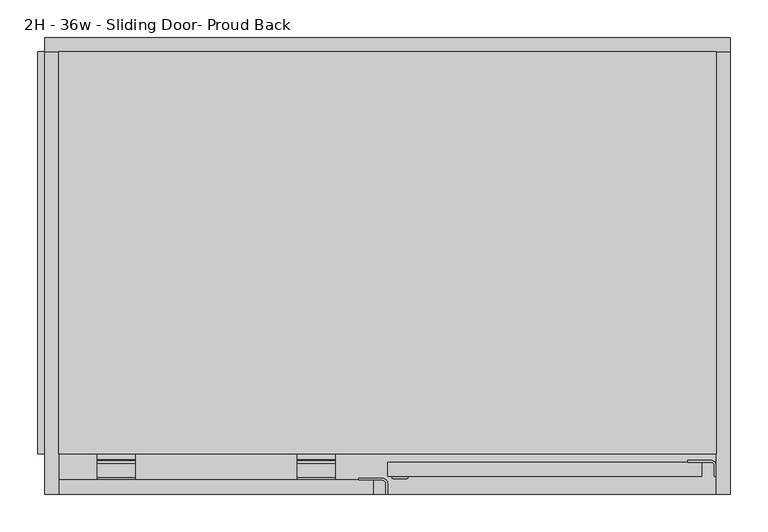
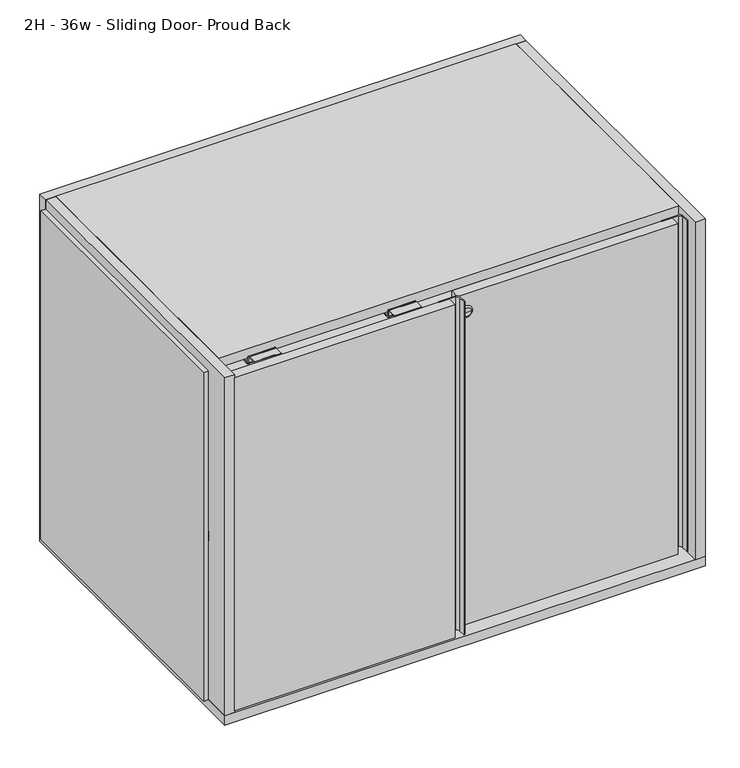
"""IFC4 building model written with IfcOpenShell, lengths in millimetres: furniture geometry, Haworth_BeHold_Modular_AttachedCredenza_StorageEnd : 2H - 36w - Sliding Door- Proud Back."""

from ifc_helpers import new_model, si_unit, point, frame, frame_2d, origin, origin_with_axes, place, context, project, spatial, polyline, circle_curve, ellipse_curve, trimmed, segment, composite_curve, outline, extrude, source, transform, mapped, element, save
from ifc_brep_helpers import plane_surface, revolved_surface, advanced_brep


def furniture_2h_36w_sliding_door_proud_back_23e09c04(model_context):
    return source(origin(), model_context, "Body", "SolidModel", [
        extrude(outline(composite_curve([segment(trimmed(circle_curve(frame_2d((-574.0474414, 701.0476594)), 1.905), [point((-574.0474414, 702.9526594))], [point((-575.9524414, 701.0476594))], True, "CARTESIAN"), True, "CONTINUOUS"), segment(polyline([(-575.9524414, 701.0476594), (-575.9524414, 679.4499516), (-577.85, 679.4500242), (-577.85, 701.04)]), True, "CONTINUOUS"), segment(trimmed(circle_curve(frame_2d((-574.04, 701.04)), 3.81), [point((-577.85, 701.04))], [point((-574.04, 704.85))], False, "CARTESIAN"), True, "CONTINUOUS"), segment(polyline([(-574.04, 704.85), (-555.8080896, 704.85)]), True, "CONTINUOUS"), segment(trimmed(circle_curve(frame_2d((-555.8080896, 701.04)), 3.81), [point((-555.8080896, 704.85))], [point((-551.9980896, 701.04))], False, "CARTESIAN"), True, "CONTINUOUS"), segment(polyline([(-551.9980896, 701.04), (-551.9980896, 690.8800242)]), True, "CONTINUOUS"), segment(trimmed(circle_curve(frame_2d((-550.0930896, 690.8800242)), 1.905), [point((-551.9980896, 690.8800242))], [point((-550.0930896, 688.9750242))], True, "CARTESIAN"), True, "CONTINUOUS"), segment(polyline([(-550.0930896, 688.9750242), (-542.7717051, 688.9750242)]), True, "CONTINUOUS"), segment(trimmed(circle_curve(frame_2d((-542.7717051, 690.8607522)), 1.885728), [point((-542.7717051, 688.9750242))], [point((-540.8859772, 690.8607522))], True, "CARTESIAN"), True, "CONTINUOUS"), segment(polyline([(-540.8859772, 690.8607522), (-540.8859772, 698.5000242), (-538.9884186, 698.5000242), (-538.9884186, 690.9003686)]), True, "CONTINUOUS"), segment(trimmed(circle_curve(frame_2d((-542.8111038, 690.9003686)), 3.8226852), [point((-538.9884186, 690.9003686))], [point((-542.8110658, 687.0776834))], False, "CARTESIAN"), True, "CONTINUOUS"), segment(polyline([(-542.8110658, 687.0776834), (-550.0879358, 687.0776111)]), True, "CONTINUOUS"), segment(trimmed(circle_curve(frame_2d((-550.0879736, 690.8876111)), 3.81), [point((-550.0879358, 687.0776111))], [point((-553.8979736, 690.8876111))], False, "CARTESIAN"), True, "CONTINUOUS"), segment(polyline([(-553.8979736, 690.8876111), (-553.8979736, 701.0476594)]), True, "CONTINUOUS"), segment(trimmed(circle_curve(frame_2d((-555.8029736, 701.0476594)), 1.905), [point((-553.8979736, 701.0476594))], [point((-555.8029736, 702.9526594))], True, "CARTESIAN"), True, "CONTINUOUS"), segment(polyline([(-555.8029736, 702.9526594), (-574.0474414, 702.9526594)]), True, "CONTINUOUS")], self_intersect=False)), frame((-544.2070469, 0.0, 0.0), z_axis=(1.0, 0.0, 0.0), x_axis=(0.0, 1.0, 0.0)), (0.0, 0.0, 1.0), 50.8),
        extrude(outline(composite_curve([segment(trimmed(circle_curve(frame_2d((-574.0474414, 701.0476594)), 1.905), [point((-574.0474414, 702.9526594))], [point((-575.9524414, 701.0476594))], True, "CARTESIAN"), True, "CONTINUOUS"), segment(polyline([(-575.9524414, 701.0476594), (-575.9524414, 679.4499516), (-577.85, 679.4500242), (-577.85, 701.04)]), True, "CONTINUOUS"), segment(trimmed(circle_curve(frame_2d((-574.04, 701.04)), 3.81), [point((-577.85, 701.04))], [point((-574.04, 704.85))], False, "CARTESIAN"), True, "CONTINUOUS"), segment(polyline([(-574.04, 704.85), (-555.8080896, 704.85)]), True, "CONTINUOUS"), segment(trimmed(circle_curve(frame_2d((-555.8080896, 701.04)), 3.81), [point((-555.8080896, 704.85))], [point((-551.9980896, 701.04))], False, "CARTESIAN"), True, "CONTINUOUS"), segment(polyline([(-551.9980896, 701.04), (-551.9980896, 690.8800242)]), True, "CONTINUOUS"), segment(trimmed(circle_curve(frame_2d((-550.0930896, 690.8800242)), 1.905), [point((-551.9980896, 690.8800242))], [point((-550.0930896, 688.9750242))], True, "CARTESIAN"), True, "CONTINUOUS"), segment(polyline([(-550.0930896, 688.9750242), (-542.7717051, 688.9750242)]), True, "CONTINUOUS"), segment(trimmed(circle_curve(frame_2d((-542.7717051, 690.8607522)), 1.885728), [point((-542.7717051, 688.9750242))], [point((-540.8859772, 690.8607522))], True, "CARTESIAN"), True, "CONTINUOUS"), segment(polyline([(-540.8859772, 690.8607522), (-540.8859772, 698.5000242), (-538.9884186, 698.5000242), (-538.9884186, 690.9003686)]), True, "CONTINUOUS"), segment(trimmed(circle_curve(frame_2d((-542.8111038, 690.9003686)), 3.8226852), [point((-538.9884186, 690.9003686))], [point((-542.8110658, 687.0776834))], False, "CARTESIAN"), True, "CONTINUOUS"), segment(polyline([(-542.8110658, 687.0776834), (-550.0879358, 687.0776111)]), True, "CONTINUOUS"), segment(trimmed(circle_curve(frame_2d((-550.0879736, 690.8876111)), 3.81), [point((-550.0879358, 687.0776111))], [point((-553.8979736, 690.8876111))], False, "CARTESIAN"), True, "CONTINUOUS"), segment(polyline([(-553.8979736, 690.8876111), (-553.8979736, 701.0476594)]), True, "CONTINUOUS"), segment(trimmed(circle_curve(frame_2d((-555.8029736, 701.0476594)), 1.905), [point((-553.8979736, 701.0476594))], [point((-555.8029736, 702.9526594))], True, "CARTESIAN"), True, "CONTINUOUS"), segment(polyline([(-555.8029736, 702.9526594), (-574.0474414, 702.9526594)]), True, "CONTINUOUS")], self_intersect=False)), frame((-277.5112637, 0.0, 0.0), z_axis=(1.0, 0.0, 0.0), x_axis=(0.0, 1.0, 0.0)), (0.0, 0.0, 1.0), 50.8),
        extrude(outline(composite_curve([segment(polyline([(-194.9620389, -577.85), (-194.9620389, -575.5745575), (-163.8563225, -575.5745575)]), True, "CONTINUOUS"), segment(trimmed(circle_curve(frame_2d((-163.8563225, -582.5688411)), 6.9942836), [point((-163.8563225, -575.5745575))], [point((-156.8620389, -582.5688411))], False, "CARTESIAN"), True, "CONTINUOUS"), segment(polyline([(-156.8620389, -582.5688411), (-156.8620389, -596.9104645), (-159.1479459, -596.9104645), (-159.1479459, -582.803)]), True, "CONTINUOUS"), segment(trimmed(circle_curve(frame_2d((-164.1009459, -582.803)), 4.953), [point((-159.1479459, -582.803))], [point((-164.1009459, -577.85))], True, "CARTESIAN"), True, "CONTINUOUS"), segment(polyline([(-164.1009459, -577.85), (-194.9620389, -577.85)]), True, "CONTINUOUS")], self_intersect=False)), frame((0.0, 0.0, 34.925), z_axis=(0.0, 0.0, 1.0), x_axis=(1.0, 0.0, 0.0)), (0.0, 0.0, 1.0), 669.925),
        extrude(outline(polyline([(-175.9091553, -596.9), (-595.0091553, -596.9), (-595.0091553, -577.85), (-175.9091553, -577.85), (-175.9091553, -596.9)])), frame((0.0, 0.0, 34.925), z_axis=(0.0, 0.0, 1.0), x_axis=(1.0, 0.0, 0.0)), (0.0, 0.0, 1.0), 669.925),
        extrude(outline(composite_curve([segment(polyline([(243.1879611, -554.0375), (243.1879611, -551.7620575), (274.2936775, -551.7620575)]), True, "CONTINUOUS"), segment(trimmed(circle_curve(frame_2d((274.2936775, -558.7563411)), 6.9942836), [point((274.2936775, -551.7620575))], [point((281.2879611, -558.7563411))], False, "CARTESIAN"), True, "CONTINUOUS"), segment(polyline([(281.2879611, -558.7563411), (281.2879611, -573.0979645), (279.0020541, -573.0979645), (279.0020541, -558.9905)]), True, "CONTINUOUS"), segment(trimmed(circle_curve(frame_2d((274.0490541, -558.9905)), 4.953), [point((279.0020541, -558.9905))], [point((274.0490541, -554.0375))], True, "CARTESIAN"), True, "CONTINUOUS"), segment(polyline([(274.0490541, -554.0375), (243.1879611, -554.0375)]), True, "CONTINUOUS")], self_intersect=False)), frame((0.0, 0.0, 34.925), z_axis=(0.0, 0.0, 1.0), x_axis=(1.0, 0.0, 0.0)), (0.0, 0.0, 1.0), 665.1625),
        advanced_brep(
        [(-148.2859311, -576.2628876, 664.9085), (-132.4123796, -576.2628876, 664.9085), (-140.3491553, -576.2628876, 664.9085), (-151.4624305, -573.0875, 664.9085), (-129.2358802, -573.0875, 664.9085), (-140.3491553, -573.0875, 664.9085)],
        [
            (0, 1, circle_curve(frame((-140.3491553, -576.2628876, 664.9085), z_axis=(0.0, -1.0, 0.0), x_axis=(1.0, 0.0, 0.0)), 7.9367757)),
            (1, 2),
            (2, 0),
            (1, 0, circle_curve(frame((-140.3491553, -576.2628876, 664.9085), z_axis=(0.0, -1.0, 0.0), x_axis=(1.0, 0.0, 0.0)), 7.9367757)),
            (3, 4, circle_curve(frame((-140.3491553, -573.0875, 664.9085), z_axis=(0.0, -1.0, 0.0), x_axis=(1.0, 0.0, 0.0)), 11.1132751)),
            (4, 1, circle_curve(frame((-132.4123796, -573.086388, 664.9085), z_axis=(0.0, 0.0, -1.0), x_axis=(0.0, -1.0, 0.0)), 3.1764996)),
            (0, 3, circle_curve(frame((-148.2859311, -573.086388, 664.9085), z_axis=(0.0, 0.0, -1.0), x_axis=(0.0, -1.0, 0.0)), 3.1764996)),
            (4, 3, circle_curve(frame((-140.3491553, -573.0875, 664.9085), z_axis=(0.0, -1.0, 0.0), x_axis=(1.0, 0.0, 0.0)), 11.1132751)),
            (5, 4),
            (3, 5),
        ],
        [
            plane_surface(frame((-140.3491553, -576.2628876, 664.9085), z_axis=(0.0, -1.0, 0.0), x_axis=(1.0, 0.0, 0.0))),
            revolved_surface(trimmed(ellipse_curve(frame((-132.4123796, -573.086388, 664.9085), z_axis=(0.0, 0.0, 1.0), x_axis=(0.0, -1.0, 0.0)), 3.1764996, 3.1764996), [point((-132.4123796, -576.2628876, 664.9085))], [point((-129.2358802, -573.0875, 664.9085))], True, "CARTESIAN"), (-140.3491553, -534.9875, 664.9085), (0.0, 1.0, 0.0)),
            plane_surface(frame((-140.3491553, -573.0875, 664.9085), z_axis=(0.0, 1.0, 0.0), x_axis=(1.0, 0.0, 0.0))),
        ],
        [
            (0, [[1, 2, 3]]),
            (0, [[4, -3, -2]]),
            (1, [[5, 6, -1, 7]]),
            (1, [[8, -7, -4, -6]]),
            (2, [[9, -5, 10]]),
            (2, [[-10, -8, -9]]),
        ],
    ),
        extrude(outline(polyline([(262.2408447, -573.0875), (-156.8591553, -573.0875), (-156.8591553, -554.0375), (262.2408447, -554.0375), (262.2408447, -573.0875)])), frame((0.0, 0.0, 34.925), z_axis=(0.0, 0.0, 1.0), x_axis=(1.0, 0.0, 0.0)), (0.0, 0.0, 1.0), 665.1625),
        extrude(outline(polyline([(-604.5341553, -6.35), (-604.5341553, -542.925), (-623.5841553, -542.925), (-623.5841553, -6.35), (-604.5341553, -6.35)])), frame((0.0, 0.0, 31.75), z_axis=(0.0, 0.0, 1.0), x_axis=(1.0, 0.0, 0.0)), (0.0, 0.0, 1.0), 660.4),
        extrude(outline(polyline([(281.2908447, -6.35), (281.2908447, -542.925), (-595.0091553, -542.925), (-595.0091553, -6.35), (281.2908447, -6.35)])), frame((0.0, 0.0, 350.8375), z_axis=(0.0, 0.0, 1.0), x_axis=(1.0, 0.0, 0.0)), (0.0, 0.0, 1.0), 19.05),
        extrude(outline(polyline([(-614.0591553, -6.35), (-595.0091553, -6.35), (-595.0091553, -542.925), (-614.0591553, -542.925), (-614.0591553, -6.35)])), frame((0.0, 0.0, 350.8375), z_axis=(0.0, 0.0, 1.0), x_axis=(1.0, 0.0, 0.0)), (0.0, 0.0, 1.0), 19.05),
        extrude(outline(polyline([(281.2908447, -6.35), (281.2908447, -542.925), (-595.0091553, -542.925), (-595.0091553, -6.35), (281.2908447, -6.35)])), frame((0.0, 0.0, 692.15), z_axis=(0.0, 0.0, 1.0), x_axis=(1.0, 0.0, 0.0)), (0.0, 0.0, 1.0), 19.05),
        extrude(outline(polyline([(300.3408447, -6.35), (-614.0591553, -6.35), (-614.0591553, 12.7), (300.3408447, 12.7), (300.3408447, -6.35)])), frame((0.0, 0.0, 31.75), z_axis=(0.0, 0.0, 1.0), x_axis=(1.0, 0.0, 0.0)), (0.0, 0.0, 1.0), 679.45),
        extrude(outline(polyline([(300.3408447, -6.35), (300.3408447, -596.9), (281.2908447, -596.9), (281.2908447, -6.35), (300.3408447, -6.35)])), frame((0.0, 0.0, 31.75), z_axis=(0.0, 0.0, 1.0), x_axis=(1.0, 0.0, 0.0)), (0.0, 0.0, 1.0), 679.45),
        extrude(outline(polyline([(-614.0591553, -596.9), (-614.0591553, -6.35), (-595.0091553, -6.35), (-595.0091553, -596.9), (-614.0591553, -596.9)])), frame((0.0, 0.0, 31.75), z_axis=(0.0, 0.0, 1.0), x_axis=(1.0, 0.0, 0.0)), (0.0, 0.0, 1.0), 679.45),
        extrude(outline(polyline([(300.3408447, 12.7), (300.3408447, -596.9), (-614.0591553, -596.9), (-614.0591553, 12.7), (300.3408447, 12.7)])), frame((0.0, 0.0, 12.7), z_axis=(0.0, 0.0, 1.0), x_axis=(1.0, 0.0, 0.0)), (0.0, 0.0, 1.0), 19.05),
        extrude(outline(composite_curve([segment(polyline([(281.2908447, -12.7), (281.2908447, -57.1999969)]), True, "CONTINUOUS"), segment(trimmed(circle_curve(frame_2d((274.9408447, -57.1999969)), 6.35), [point((281.2908447, -57.1999969))], [point((274.9408447, -63.5499969))], False, "CARTESIAN"), True, "CONTINUOUS"), segment(polyline([(274.9408447, -63.5499969), (263.4907684, -63.5499969), (224.0908477, -24.1500763), (224.0908477, -12.7)]), True, "CONTINUOUS"), segment(trimmed(circle_curve(frame_2d((230.4408477, -12.7)), 6.35), [point((224.0908477, -12.7))], [point((230.4408477, -6.35))], False, "CARTESIAN"), True, "CONTINUOUS"), segment(polyline([(230.4408477, -6.35), (274.9408447, -6.35)]), True, "CONTINUOUS"), segment(trimmed(circle_curve(frame_2d((274.9408447, -12.7)), 6.35), [point((274.9408447, -6.35))], [point((281.2908447, -12.7))], False, "CARTESIAN"), True, "CONTINUOUS")], self_intersect=False)), origin_with_axes(), (0.0, 0.0, 1.0), 12.7),
        extrude(outline(composite_curve([segment(trimmed(circle_curve(frame_2d((274.9408447, -571.5)), 6.35), [point((281.2908447, -571.5))], [point((274.9408447, -577.85))], False, "CARTESIAN"), True, "CONTINUOUS"), segment(polyline([(274.9408447, -577.85), (230.4408477, -577.85)]), True, "CONTINUOUS"), segment(trimmed(circle_curve(frame_2d((230.4408477, -571.5)), 6.35), [point((230.4408477, -577.85))], [point((224.0908477, -571.5))], False, "CARTESIAN"), True, "CONTINUOUS"), segment(polyline([(224.0908477, -571.5), (224.0908477, -560.0499237), (263.4907684, -520.6500031), (274.9408447, -520.6500031)]), True, "CONTINUOUS"), segment(trimmed(circle_curve(frame_2d((274.9408447, -527.0000031)), 6.35), [point((274.9408447, -520.6500031))], [point((281.2908447, -527.0000031))], False, "CARTESIAN"), True, "CONTINUOUS"), segment(polyline([(281.2908447, -527.0000031), (281.2908447, -571.5)]), True, "CONTINUOUS")], self_intersect=False)), origin_with_axes(), (0.0, 0.0, 1.0), 12.7),
        extrude(outline(composite_curve([segment(trimmed(circle_curve(frame_2d((-588.6591553, -12.7)), 6.35), [point((-595.0091553, -12.7))], [point((-588.6591553, -6.35))], False, "CARTESIAN"), True, "CONTINUOUS"), segment(polyline([(-588.6591553, -6.35), (-544.1591584, -6.35)]), True, "CONTINUOUS"), segment(trimmed(circle_curve(frame_2d((-544.1591584, -12.7)), 6.35), [point((-544.1591584, -6.35))], [point((-537.8091584, -12.7))], False, "CARTESIAN"), True, "CONTINUOUS"), segment(polyline([(-537.8091584, -12.7), (-537.8091584, -24.1500763), (-577.209079, -63.5499969), (-588.6591553, -63.5499969)]), True, "CONTINUOUS"), segment(trimmed(circle_curve(frame_2d((-588.6591553, -57.1999969)), 6.35), [point((-588.6591553, -63.5499969))], [point((-595.0091553, -57.1999969))], False, "CARTESIAN"), True, "CONTINUOUS"), segment(polyline([(-595.0091553, -57.1999969), (-595.0091553, -12.7)]), True, "CONTINUOUS")], self_intersect=False)), origin_with_axes(), (0.0, 0.0, 1.0), 12.7),
        extrude(outline(composite_curve([segment(polyline([(-595.0091553, -571.5), (-595.0091553, -527.0000031)]), True, "CONTINUOUS"), segment(trimmed(circle_curve(frame_2d((-588.6591553, -527.0000031)), 6.35), [point((-595.0091553, -527.0000031))], [point((-588.6591553, -520.6500031))], False, "CARTESIAN"), True, "CONTINUOUS"), segment(polyline([(-588.6591553, -520.6500031), (-577.209079, -520.6500031), (-537.8091584, -560.0499237), (-537.8091584, -571.5)]), True, "CONTINUOUS"), segment(trimmed(circle_curve(frame_2d((-544.1591584, -571.5)), 6.35), [point((-537.8091584, -571.5))], [point((-544.1591584, -577.85))], False, "CARTESIAN"), True, "CONTINUOUS"), segment(polyline([(-544.1591584, -577.85), (-588.6591553, -577.85)]), True, "CONTINUOUS"), segment(trimmed(circle_curve(frame_2d((-588.6591553, -571.5)), 6.35), [point((-588.6591553, -577.85))], [point((-595.0091553, -571.5))], False, "CARTESIAN"), True, "CONTINUOUS")], self_intersect=False)), origin_with_axes(), (0.0, 0.0, 1.0), 12.7),
    ])


if __name__ == "__main__":
    model = new_model("IFC4")
    model_context = context("Model", 3, world=origin())
    ifc_project = project(units=[si_unit("LENGTHUNIT", "METRE", prefix="MILLI")], contexts=[model_context])
    site = spatial("IfcSite", under=ifc_project)
    building = spatial("IfcBuilding", under=site)
    placement = place(None, origin())
    furniture_2h_36w_sliding_door_proud_back_shape = furniture_2h_36w_sliding_door_proud_back_23e09c04(model_context)
    element("IfcFurniture", 1, ObjectType="Haworth_BeHold_Modular_AttachedCredenza_StorageEnd : 2H - 36w - Sliding Door- Proud Back", at=placement, inside=building, context=model_context, shape_type="MappedRepresentation", body=[
        mapped(furniture_2h_36w_sliding_door_proud_back_shape, transform((0.0, 0.0, 0.0), x_axis=(1.0, 0.0, 0.0), y_axis=(0.0, 1.0, 0.0), z_axis=(0.0, 0.0, 1.0))),
    ])
    save(model, "model.ifc")
